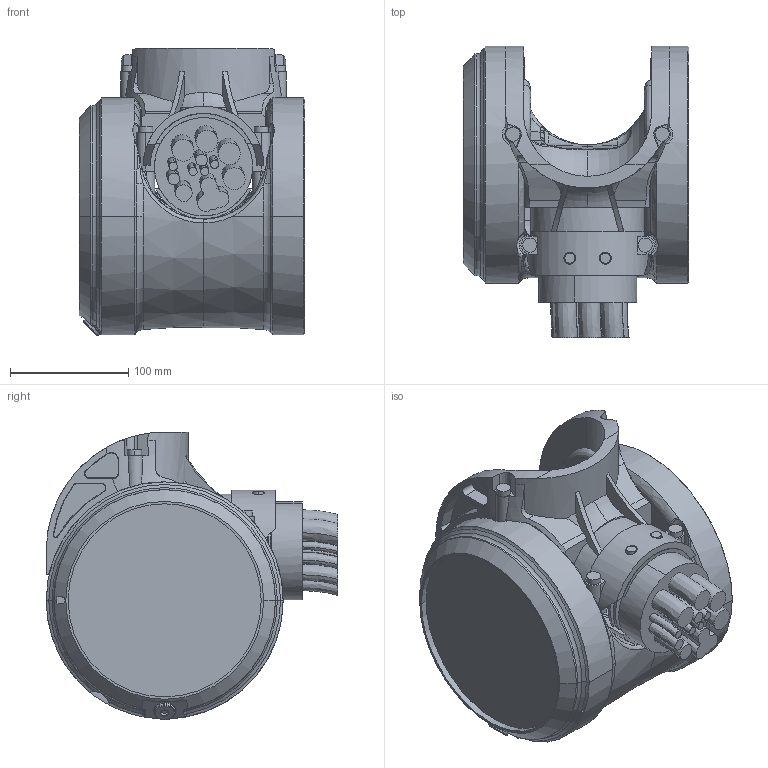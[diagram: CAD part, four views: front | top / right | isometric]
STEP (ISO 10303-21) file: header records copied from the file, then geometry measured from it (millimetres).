
FILE_DESCRIPTION (( 'STEP AP214' ), '1' );
FILE_NAME ('IRB6730-LID_220kg-290_OC_00_LINK06_CABLE.step', '2026-05-26T09:11:46', ( '' ), ( '' ), 'SwSTEP 2.0', 'SolidWorks 2024', '' );
FILE_SCHEMA (( 'AUTOMOTIVE_DESIGN' ));
Length unit declared in the file: millimetre
Products named in the file (1): IRB6730-LID_220kg-290_OC_00_LINK06_CABLE
Bounding box: 190.5 x 246.09 x 242.9 mm (x, y, z)
Volume: 3702812.8 mm3; surface area: 348600.3 mm2
Topology: 1 solids, 1 shells, 753 faces, 1955 edges, 1199 vertices
Faces by surface type: bspline 212, cylinder 174, plane 159, cone 123, torus 80, sphere 5
Entity records: 42814 total; most frequent: CARTESIAN_POINT 17978, ORIENTED_EDGE 3862, DIRECTION 2997, EDGE_CURVE 1931, AXIS2_PLACEMENT_3D 1242, VERTEX_POINT 1199, EDGE_LOOP 798, UNCERTAINTY_MEASURE_WITH_UNIT 755
